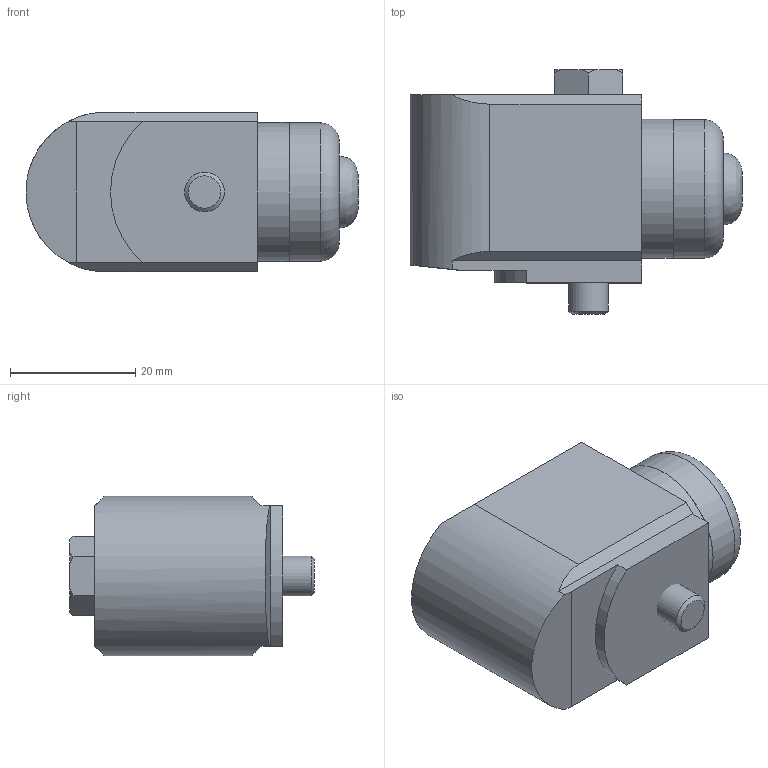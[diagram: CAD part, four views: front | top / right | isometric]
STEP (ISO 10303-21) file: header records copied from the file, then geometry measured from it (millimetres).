
FILE_DESCRIPTION(/* description */ (''),/* implementation_level */ '2;1');
FILE_NAME(/* name */ 'Z:\Engineering\Drawings\3D Library\Assemblies\Website\Premium Side\HS-150 Side Braided\HS-150SXXX0202.stp',/* time_stamp */ '2023-03-12T13:32:51+00:00',/* author */ ('Ricardo.Peneda'),/* organization */ (''),/* preprocessor_version */ 'ST-DEVELOPER v18.1',/* originating_system */ 'Autodesk Inventor 2021',/* authorisation */ '');
FILE_SCHEMA (('AUTOMOTIVE_DESIGN { 1 0 10303 214 3 1 1 }'));
Length unit declared in the file: inch
Products named in the file (1): HS-150SXXX0202_Shrinkwrap_1
Bounding box: 52.99 x 39 x 25.5 mm (x, y, z)
Volume: 24788.8 mm3; surface area: 10385.9 mm2
Topology: 4 solids, 4 shells, 67 faces, 169 edges, 122 vertices
Faces by surface type: plane 37, cylinder 17, cone 11, torus 1, bspline 1
Full cylindrical faces by diameter (mm): 4.2 x1, 4.5 x1, 5.359 x1, 6.35 x1, 10 x1, 13 x1, 13.941 x1, 14.95 x1, 15.34 x1, 15.35 x1, 17.941 x1, 19.891 x1, 20 x1, 22.141 x1, 22.2 x1
Entity records: 2229 total; most frequent: CARTESIAN_POINT 409, DIRECTION 379, ORIENTED_EDGE 338, EDGE_CURVE 169, AXIS2_PLACEMENT_3D 155, VERTEX_POINT 122, EDGE_LOOP 83, CIRCLE 83
